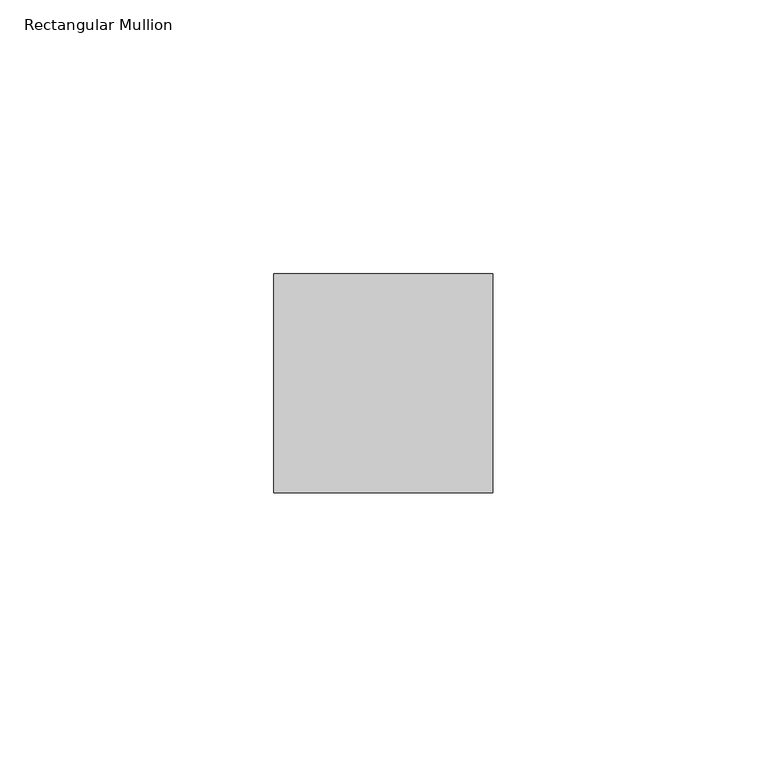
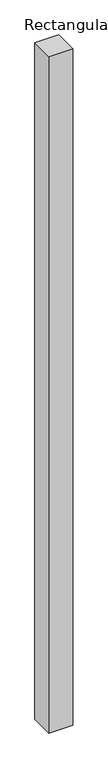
"""IFC4 building model written with IfcOpenShell, lengths in millimetres: member geometry, Rectangular Mullion : Danpal_NM_Middle-V-Mullion."""

import ifcopenshell
import ifcopenshell.guid

model = None  # the IFC model being written
_history = None  # IfcOwnerHistory: only IFC2X3 demands one
_inside = {}  # id of a spatial element -> (the spatial element, [elements in it])
_under = {}  # id of a project, library or spatial element -> (it, [spatial elements below it])
_declared = {}  # id of a project -> (the project, [libraries it declares])
_typed = {}  # id of a type object -> (the type object, [elements of that type])
_made_of = {}  # id of a material, layer set ... -> (it, [elements and type objects made of it])


def new_model(schema):
    """Start an empty IFC model of exactly this schema.

    Asked for "IFC4X3", IfcOpenShell would pick the latest addendum, in which some entities
    have other attributes; the version numbers below select the first issue.
    IFC2X3 requires an IfcOwnerHistory on every rooted entity: one is made here for all.
    """
    global model, _history
    if schema == "IFC4X3":
        model = ifcopenshell.file(schema_version=(4, 3, 0, 0))
    else:
        model = ifcopenshell.file(schema=schema)
    _inside.clear()
    _under.clear()
    _declared.clear()
    _typed.clear()
    _made_of.clear()
    _history = None
    if model.schema == "IFC2X3":
        org = make("IfcOrganization", Name="unknown")
        user = make(
            "IfcPersonAndOrganization",
            ThePerson=make("IfcPerson", FamilyName="unknown"),
            TheOrganization=org,
        )
        app = make(
            "IfcApplication",
            ApplicationDeveloper=org,
            Version="unknown",
            ApplicationFullName="unknown",
            ApplicationIdentifier="unknown",
        )
        _history = make(
            "IfcOwnerHistory",
            OwningUser=user,
            OwningApplication=app,
            ChangeAction="ADDED",
            CreationDate=0,
        )
    return model


def make(cls, **values):
    """One entity of the class cls with the attributes given. An attribute that is None is left unset."""
    return model.create_entity(
        cls, **{name: value for name, value in values.items() if value is not None}
    )


def rooted(cls, **values):
    """An entity with a GlobalId (a new one), such as an element, a storey or a relation."""
    return make(cls, GlobalId=ifcopenshell.guid.new(), OwnerHistory=_history, **values)


def si_unit(unit_type, name, prefix=None):
    """IfcSIUnit, for example si_unit("LENGTHUNIT", "METRE", prefix="MILLI")."""
    return make("IfcSIUnit", UnitType=unit_type, Prefix=prefix, Name=name)


def assignment(units):
    """IfcUnitAssignment: the units of a project."""
    return None if units is None else make("IfcUnitAssignment", Units=units)


def point(xyz):
    """IfcCartesianPoint."""
    return None if xyz is None else make("IfcCartesianPoint", Coordinates=xyz)


def direction(xyz):
    """IfcDirection."""
    return None if xyz is None else make("IfcDirection", DirectionRatios=xyz)


def frame(location, z_axis=None, x_axis=None):
    """IfcAxis2Placement3D, a coordinate frame: its origin and axes. An axis left out is left unset."""
    return make(
        "IfcAxis2Placement3D",
        Location=point(location),
        Axis=direction(z_axis),
        RefDirection=direction(x_axis),
    )


def origin():
    """The frame at (0, 0, 0) with its axes left unset."""
    return frame((0.0, 0.0, 0.0))


def place(relative_to, where):
    """IfcLocalPlacement: puts the frame where relative to a parent placement (None: the world)."""
    return make(
        "IfcLocalPlacement", PlacementRelTo=relative_to, RelativePlacement=where
    )


def context(
    kind, dimensions, precision=None, world=None, true_north=None, identifier=None
):
    """IfcGeometricRepresentationContext, for example the 3D "Model" context."""
    return make(
        "IfcGeometricRepresentationContext",
        ContextIdentifier=identifier,
        ContextType=kind,
        CoordinateSpaceDimension=dimensions,
        Precision=precision,
        WorldCoordinateSystem=world,
        TrueNorth=true_north,
    )


def project(units=None, contexts=None):
    """IfcProject with its units and contexts."""
    return rooted(
        "IfcProject",
        Name="project",
        RepresentationContexts=contexts,
        UnitsInContext=assignment(units),
    )


def spatial(cls, under=None, at=None, **own):
    """A site, building, storey or space (cls), placed at a placement, below another one or the project."""
    s = rooted(cls, ObjectPlacement=at, **own)
    if under is not None:
        _under.setdefault(under.id(), (under, []))[1].append(s)
    return s


def polyline(points):
    """IfcPolyline through the points."""
    return make("IfcPolyline", Points=[point(p) for p in points])


def outline(outer, holes=None, kind="AREA"):
    """IfcArbitraryClosedProfileDef: a profile drawn as a closed curve; with holes, ...WithVoids."""
    if holes is None:
        return make("IfcArbitraryClosedProfileDef", ProfileType=kind, OuterCurve=outer)
    return make(
        "IfcArbitraryProfileDefWithVoids",
        ProfileType=kind,
        OuterCurve=outer,
        InnerCurves=holes,
    )


def extrude(swept, where, along, depth):
    """IfcExtrudedAreaSolid: the profile swept, set in the frame where, extruded along a direction by depth."""
    return make(
        "IfcExtrudedAreaSolid",
        SweptArea=swept,
        Position=where,
        ExtrudedDirection=direction(along),
        Depth=depth,
    )


def shape(context_of_items, identifier, shape_type, items):
    """IfcShapeRepresentation: the items that make up one representation, for example the "Body"."""
    return make(
        "IfcShapeRepresentation",
        ContextOfItems=context_of_items,
        RepresentationIdentifier=identifier,
        RepresentationType=shape_type,
        Items=items,
    )


def source(mapping_origin, context_of_items, identifier, shape_type, items):
    """IfcRepresentationMap: a shape defined once, which mapped items show again and again."""
    return make(
        "IfcRepresentationMap",
        MappingOrigin=mapping_origin,
        MappedRepresentation=shape(context_of_items, identifier, shape_type, items),
    )


def transform(
    local_origin,
    x_axis=None,
    y_axis=None,
    z_axis=None,
    scale=None,
    scale2=None,
    scale3=None,
    uniform=True,
):
    """IfcCartesianTransformationOperator3D, or its non-uniform kind. x_axis, y_axis, z_axis: its Axis1, 2, 3."""
    if uniform:
        return make(
            "IfcCartesianTransformationOperator3D",
            Axis1=direction(x_axis),
            Axis2=direction(y_axis),
            LocalOrigin=point(local_origin),
            Scale=scale,
            Axis3=direction(z_axis),
        )
    return make(
        "IfcCartesianTransformationOperator3DnonUniform",
        Axis1=direction(x_axis),
        Axis2=direction(y_axis),
        LocalOrigin=point(local_origin),
        Scale=scale,
        Axis3=direction(z_axis),
        Scale2=scale2,
        Scale3=scale3,
    )


def mapped(mapping_source, mapping_target):
    """IfcMappedItem: shows the shape of a source again, moved by a transform."""
    return make(
        "IfcMappedItem", MappingSource=mapping_source, MappingTarget=mapping_target
    )


def made_of(thing, what):
    """Note that an element or type object is made of a material, layer set ...; save() writes the relation."""
    if what is not None:
        _made_of.setdefault(what.id(), (what, []))[1].append(thing)
    return thing


def element(
    cls,
    number,
    at=None,
    inside=None,
    cuts=None,
    type_object=None,
    material=None,
    context=None,
    identifier="Body",
    shape_type=None,
    held_by="IfcProductDefinitionShape",
    body=None,
    shapes=None,
    **own,
):
    """One element of the class cls, such as IfcWall. Its Tag is "e" and its number.

    at: its placement. inside: the storey or other place that contains it. cuts: it is an
    opening in that element (IfcRelVoidsElement). A single representation is given by context,
    identifier, shape_type and body (its items); several are given by shapes. held_by: the class
    of the entity that holds the representations. save() writes the other relations.
    """
    e = rooted(cls, Tag="e%d" % number, ObjectPlacement=at, **own)
    if body is not None:
        shapes = [shape(context, identifier, shape_type, body)]
    if shapes is not None:
        e.Representation = make(held_by, Representations=shapes)
    if inside is not None:
        _inside.setdefault(inside.id(), (inside, []))[1].append(e)
    if cuts is not None:
        rooted(
            "IfcRelVoidsElement", RelatingBuildingElement=cuts, RelatedOpeningElement=e
        )
    if type_object is not None:
        _typed.setdefault(type_object.id(), (type_object, []))[1].append(e)
    return made_of(e, material)


def aggregate(whole, parts):
    """IfcRelAggregates: a whole, such as a stair, and the parts it consists of."""
    return rooted("IfcRelAggregates", RelatingObject=whole, RelatedObjects=parts)


def save(model, path):
    """Write the relations noted so far, then the file.

    IfcRelAggregates (storeys below a building ...), IfcRelContainedInSpatialStructure (elements
    in a storey), IfcRelDefinesByType, IfcRelAssociatesMaterial and IfcRelDeclares: one each for
    every whole, place, type object, material and project.
    """
    for whole, parts in _under.values():
        aggregate(whole, parts)
    for where, things in _inside.values():
        rooted(
            "IfcRelContainedInSpatialStructure",
            RelatedElements=things,
            RelatingStructure=where,
        )
    for kind, things in _typed.values():
        rooted("IfcRelDefinesByType", RelatedObjects=things, RelatingType=kind)
    for what, things in _made_of.values():
        rooted("IfcRelAssociatesMaterial", RelatedObjects=things, RelatingMaterial=what)
    for by, libraries in _declared.values():
        rooted("IfcRelDeclares", RelatingContext=by, RelatedDefinitions=libraries)
    model.write(path)


def rectangular_mullion_053339e4(model_context):
    return source(origin(), model_context, "Body", "SweptSolid", [
        extrude(outline(polyline([(0.0, 13.2378279), (-40.0, 13.2378279), (-40.0, 53.2378279), (0.0, 53.2378279), (0.0, 13.2378279)])), frame((0.0, 0.0, -1193.1107708), z_axis=(0.0, 0.0, 1.0), x_axis=(1.0, 0.0, 0.0)), (0.0, 0.0, 1.0), 1193.1107708),
    ])


if __name__ == "__main__":
    model = new_model("IFC4")
    model_context = context("Model", 3, world=origin())
    ifc_project = project(units=[si_unit("LENGTHUNIT", "METRE", prefix="MILLI")], contexts=[model_context])
    site = spatial("IfcSite", under=ifc_project)
    building = spatial("IfcBuilding", under=site)
    placement = place(None, origin())
    rectangular_mullion_shape = rectangular_mullion_053339e4(model_context)
    element("IfcMember", 1, ObjectType="Rectangular Mullion : Danpal_NM_Middle-V-Mullion", at=placement, inside=building, context=model_context, shape_type="MappedRepresentation", body=[
        mapped(rectangular_mullion_shape, transform((0.0, 0.0, 0.0), x_axis=(1.0, 0.0, 0.0), y_axis=(0.0, 1.0, 0.0), z_axis=(0.0, 0.0, 1.0))),
    ])
    save(model, "model.ifc")
